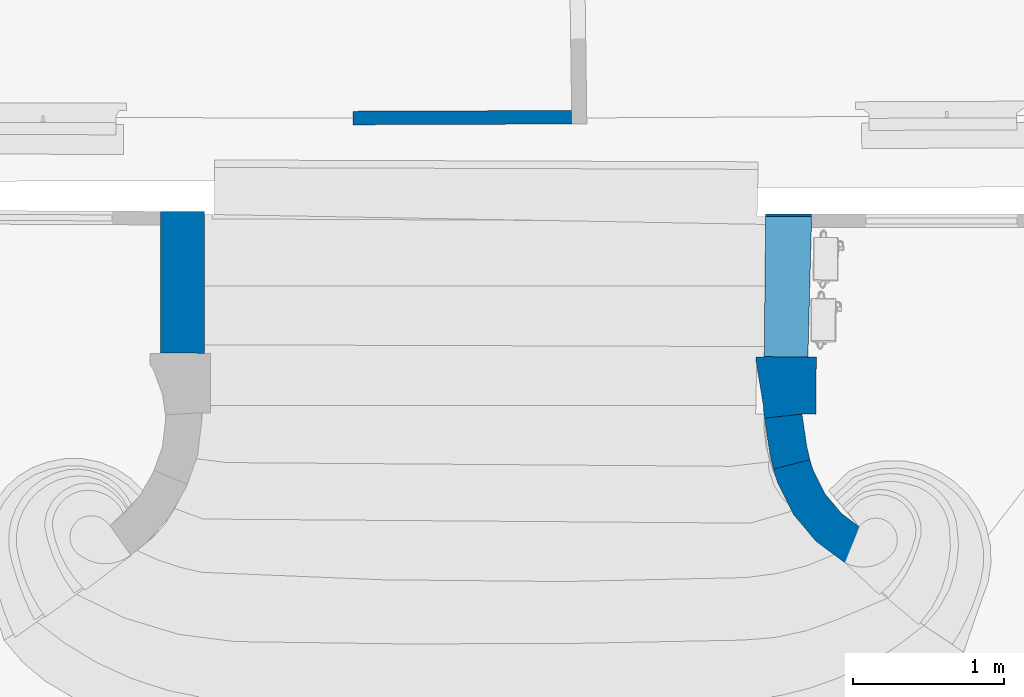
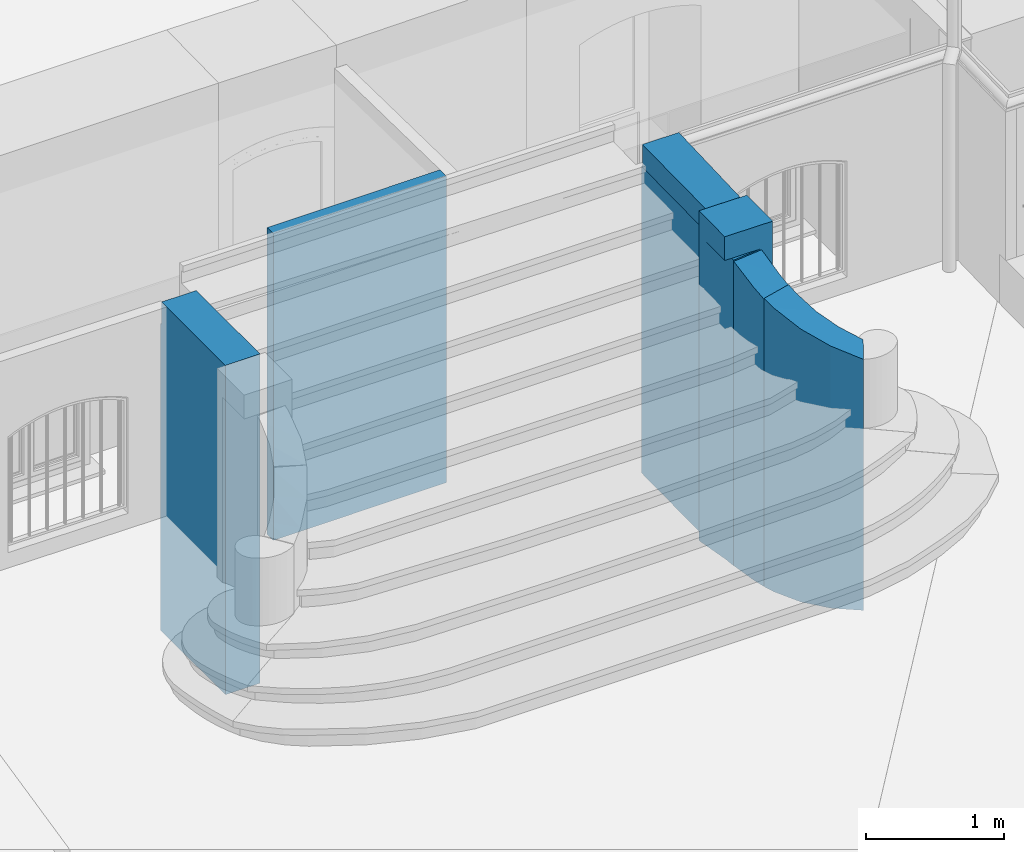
# One storey, part 14 of 133: 6 walls.
"""IFC2X3 building model written with IfcOpenShell, lengths in centimetres."""

from ifc_helpers import new_model, entity, si_unit, converted_unit, direction, frame, origin, origin_with_axes, place, context, subcontext, project, spatial, polyline, outline, extrude, clip, bounded_halfspace, material, layer, layer_set, layer_usage, type_object, element, save


model = new_model("IFC2X3")

# Units and contexts
model_context = context("Model", 3, precision=0.0001, world=origin(), true_north=direction((0.225632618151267, 0.974212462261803, 0.0)))
body_context = subcontext(model_context, "Body", "Model", "MODEL_VIEW")
ifc_project = project(units=[si_unit("LENGTHUNIT", "METRE", prefix="CENTI"), si_unit("AREAUNIT", "SQUARE_METRE", prefix="CENTI"), si_unit("VOLUMEUNIT", "CUBIC_METRE", prefix="CENTI"), converted_unit("PLANEANGLEUNIT", "DEGREE", entity("IfcRatioMeasure", 0.0174532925), si_unit("PLANEANGLEUNIT", "RADIAN"), dimensions=[0, 0, 0, 0, 0, 0, 0])], contexts=[model_context])

# Site, building, storey
site_placement = place(None, origin_with_axes())
site = spatial("IfcSite", under=ifc_project, at=site_placement, Name="Default Site", CompositionType="ELEMENT")
building_placement = place(site_placement, origin_with_axes())
building = spatial("IfcBuilding", under=site, at=building_placement, Name="Default Building", CompositionType="ELEMENT")
storey_placement = place(building_placement, frame((0.0, 0.0, -291.400371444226), z_axis=(0.0, 0.0, 1.0), x_axis=(1.0, 0.0, 0.0)))
storey = spatial("IfcBuildingStorey", under=building, at=storey_placement, Name="Rez-de-Jardin", CompositionType="ELEMENT", Elevation=-291.400371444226)

# Walls
ifc_material = material(Name="<aucun>")
ifc_layer_1 = layer(ifc_material, 9.0)
ifc_layer_set_1 = layer_set([ifc_layer_1], Name="default")
ifc_layer_usage_1 = layer_usage(ifc_layer_set_1, "AXIS2", "POSITIVE", -4.5)
wall_type_1 = type_object("IfcWallType", Name="default 90", PredefinedType="NOTDEFINED", material=ifc_layer_set_1)
wall_1_placement = place(storey_placement, frame((-298.891768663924, -907.451475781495, -1.94511073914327e-11), z_axis=(0.0, 0.0, 1.0), x_axis=(0.999992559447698, 0.00385759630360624, 0.0)))
element("IfcWallStandardCase", 1, at=wall_1_placement, inside=storey, type_object=wall_type_1, material=ifc_layer_usage_1, Name="Enveloppe 395010", context=body_context, shape_type="SweptSolid", body=[
    extrude(outline(polyline([(0.0658756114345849, 4.49999999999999), (0.0658756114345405, -4.49999999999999), (145.134690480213, -4.50000000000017), (145.049287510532, 4.49999999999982), (0.0658756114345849, 4.49999999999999)])), frame((0.0, 0.0, 8.88178419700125e-14), z_axis=(0.0, 0.0, 1.0), x_axis=(1.0, 0.0, 0.0)), (0.0, 0.0, 1.0), 271.400371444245),
])
ifc_layer_2 = layer(ifc_material, 40.0)
ifc_layer_set_2 = layer_set([ifc_layer_2], Name="default")
ifc_layer_usage_2 = layer_usage(ifc_layer_set_2, "AXIS2", "POSITIVE", -20.0)
wall_type_2 = type_object("IfcWallType", Name="default 400", PredefinedType="NOTDEFINED", material=ifc_layer_set_2)
wall_2_placement = place(storey_placement, frame((-11.7721376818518, -1103.79173966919, -1.94511073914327e-11), z_axis=(0.0, 0.0, 1.0), x_axis=(0.00648190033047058, 0.999978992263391, 0.0)))
element("IfcWallStandardCase", 2, at=wall_2_placement, inside=storey, type_object=wall_type_2, material=ifc_layer_usage_2, Name="Enveloppe 326500", context=body_context, shape_type="Clipping", body=[
    clip(clip(clip(clip(clip(extrude(outline(polyline([(-1.77635683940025e-13, 20.0), (-3.5527136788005e-13, 14.4963371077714), (-0.398599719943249, 14.4616086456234), (-2.74866973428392, 14.0974132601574), (-1.77635683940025e-13, -10.7391702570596), (0.0, -20.0), (37.8681198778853, -19.9999999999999), (37.8681198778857, -14.4240491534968), (123.726151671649, -16.1392549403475), (123.727688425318, -16.3763337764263), (132.727470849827, -16.3179968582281), (132.533112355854, 14.2316073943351), (37.8681198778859, 14.5778787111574), (37.8681198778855, 20.0000000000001), (-1.77635683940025e-13, 20.0)])), frame((0.0, 0.0, 8.88178419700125e-14), z_axis=(0.0, 0.0, 1.0), x_axis=(1.0, 0.0, 0.0)), (0.0, 0.0, 1.0), 291.413221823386), bounded_halfspace(frame((-1.77635683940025e-13, 20.0, 270.392004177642), z_axis=(0.0, 0.0, 1.0), x_axis=(1.0, 2.86836526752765e-15, 0.0)), True, frame((-1.77635683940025e-13, 20.0, 270.392004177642), z_axis=(0.0, 0.0, 1.0), x_axis=(1.0, 0.0, 0.0)), polyline([(-3.5527136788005e-13, -5.50366289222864), (-1.77635683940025e-13, 2.77555756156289e-15), (35.3393804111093, 9.43689570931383e-14), (6.20757054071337, -4.96282112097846), (-3.5527136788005e-13, -5.50366289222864)]))), bounded_halfspace(frame((123.726151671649, -16.1392549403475, 271.400371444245), z_axis=(0.0, 0.0, -1.0), x_axis=(0.999993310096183, -0.00365783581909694, 0.0)), True, frame((123.726151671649, -16.1392549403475, 271.400371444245), z_axis=(0.0, 0.0, 1.0), x_axis=(1.0, 0.0, 0.0)), polyline([(-85.858031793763, 1.7152057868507), (0.0, -5.55111512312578e-15), (7.31614318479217, -0.0267614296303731), (7.2617827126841, 30.3765143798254), (-85.7519482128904, 30.7167456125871), (-85.858031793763, 1.7152057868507)]))), bounded_halfspace(frame((123.727659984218, -16.3763339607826, 271.400371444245), z_axis=(0.0, 0.0, -1.0), x_axis=(0.999979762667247, 0.00636193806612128, 0.0)), True, frame((123.727659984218, -16.3763339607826, 271.400371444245), z_axis=(0.0, 0.0, 1.0), x_axis=(1.0, 0.0, 0.0)), polyline([(0.0, -8.32667268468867e-15), (7.31492770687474, 0.0465380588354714), (7.3146348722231, 0.210317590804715), (-0.00150831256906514, 0.237079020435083), (0.0, -8.32667268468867e-15)]))), bounded_halfspace(frame((132.533112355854, 14.2316073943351, 271.400371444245), z_axis=(0.0, 0.0, -1.0), x_axis=(-0.999993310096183, 0.00365783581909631, 0.0)), True, frame((132.533112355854, 14.2316073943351, 271.400371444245), z_axis=(0.0, 0.0, 1.0), x_axis=(1.0, 0.0, 0.0)), polyline([(-1.54517797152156, 0.00565204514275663), (-1.49052466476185, -30.5614032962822), (0.194365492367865, -30.5506839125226), (0.0, 0.0), (-1.54517797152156, 0.00565204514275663)]))), bounded_halfspace(frame((-2.74866973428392, 14.0974132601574, 270.392004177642), z_axis=(0.0, 0.0, -1.0), x_axis=(0.109998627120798, -0.99393173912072, 0.0)), True, frame((-2.74866973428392, 14.0974132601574, 270.392004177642), z_axis=(0.0, 0.0, 1.0), x_axis=(1.0, 0.0, 0.0)), polyline([(0.0, 5.55111512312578e-15), (2.74866973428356, -24.836583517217), (2.74866973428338, 0.39892384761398), (2.35007001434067, 0.364195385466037), (0.0, 5.55111512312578e-15)]))),
])
ifc_layer_3 = layer(ifc_material, 29.0)
ifc_layer_set_3 = layer_set([ifc_layer_3], Name="default")
ifc_layer_usage_3 = layer_usage(ifc_layer_set_3, "AXIS2", "POSITIVE", -14.5)
wall_type_3 = type_object("IfcWallType", Name="default 290", PredefinedType="NOTDEFINED", material=ifc_layer_set_3)
wall_3_placement = place(storey_placement, frame((-411.991026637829, -1063.6588983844, -1.94511073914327e-11), z_axis=(0.0, 0.0, 1.0), x_axis=(0.00116908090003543, 0.999999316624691, 0.0)))
element("IfcWallStandardCase", 3, at=wall_3_placement, inside=storey, type_object=wall_type_3, material=ifc_layer_usage_3, Name="Enveloppe 327406", context=body_context, shape_type="Clipping", body=[
    clip(extrude(outline(polyline([(0.212423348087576, 14.5), (0.212423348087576, -14.5), (94.2324744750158, -14.4999999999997), (94.3230589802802, 14.5000000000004), (0.212423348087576, 14.5)])), frame((0.0, 0.0, 1.33226762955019e-13), z_axis=(0.0, 0.0, 1.0), x_axis=(1.0, 0.0, 0.0)), (0.0, 0.0, 1.0), 291.413221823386), bounded_halfspace(frame((94.32305898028, 14.5000000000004, 271.400371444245), z_axis=(0.0, 0.0, -1.0), x_axis=(-1.0, -1.4924910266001e-14, 0.0)), True, frame((94.32305898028, 14.5000000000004, 271.400371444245), z_axis=(0.0, 0.0, 1.0), x_axis=(1.0, 0.0, 0.0)), polyline([(-1.61420470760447, -29.0000000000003), (-0.0905845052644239, -29.0000000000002), (0.0, 0.0), (-1.51198259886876, 0.0), (-1.61420470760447, -29.0000000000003)]))),
])
ifc_layer_usage_4 = layer_usage(ifc_layer_set_3, "AXIS2", "POSITIVE", -14.5)
wall_4_placement = place(storey_placement, frame((-11.6049998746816, -1065.97711542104, -1.94511073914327e-11), z_axis=(0.0, 0.0, 1.0), x_axis=(0.0101396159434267, 0.999948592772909, 0.0)))
element("IfcWallStandardCase", 4, at=wall_4_placement, inside=storey, type_object=wall_type_3, material=ifc_layer_usage_4, Name="Enveloppe 328179", context=body_context, shape_type="Clipping", body=[
    clip(extrude(outline(polyline([(0.106252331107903, 14.5), (0.106252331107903, -14.5017338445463), (93.2873864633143, -16.0222654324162), (93.1206055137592, 14.5), (0.106252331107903, 14.5)])), frame((0.0, 0.0, 271.400371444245), z_axis=(0.0, 0.0, 1.0), x_axis=(1.0, 0.0, 0.0)), (0.0, 0.0, 1.0), 20.0128503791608), bounded_halfspace(frame((93.2861758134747, -15.9028735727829, 281.400371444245), z_axis=(0.0, 0.0, 1.0), x_axis=(0.00544579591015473, -0.999985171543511, 0.0)), True, frame((93.2861758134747, -15.9028735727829, 281.400371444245), z_axis=(0.0, 0.0, 1.0), x_axis=(1.0, 0.0, 0.0)), polyline([(-7.31619212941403, -5.55111512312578e-15), (1.77635683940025e-13, -5.55111512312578e-15), (0.000650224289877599, -0.119397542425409), (-7.31619212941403, -5.55111512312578e-15)]))),
])
ifc_layer_4 = layer(ifc_material, 25.0)
ifc_layer_set_4 = layer_set([ifc_layer_4], Name="default")
ifc_layer_usage_5 = layer_usage(ifc_layer_set_4, "AXIS2", "POSITIVE", -12.5)
wall_type_4 = type_object("IfcWallType", Name="default 250", PredefinedType="NOTDEFINED", material=ifc_layer_set_4)
wall_5_placement = place(storey_placement, frame((33.5354159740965, -1191.42276411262, 8.88178419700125e-14), z_axis=(0.0, 0.0, 1.0), x_axis=(-0.869260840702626, 0.494353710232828, 0.0)))
solid = clip(clip(clip(clip(clip(clip(clip(clip(extrude(outline(polyline([(71.8207138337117, -17.9285398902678), (64.7706823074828, -11.3135539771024), (45.4568367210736, 1.57019522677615), (23.6924013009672, 9.65258198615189), (0.650702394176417, 12.4978827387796), (4.44089209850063e-13, 12.4999999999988), (0.0, -12.5000000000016), (0.488013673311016, -12.5015879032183), (17.768823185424, -14.6355060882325), (34.0917108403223, -20.697133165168), (48.5767055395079, -30.3596852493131), (53.8640870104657, -35.3207912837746), (71.8207138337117, -17.9285398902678)])), frame((0.0, 0.0, -1.33226762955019e-13), z_axis=(0.0, 0.0, 1.0), x_axis=(1.0, 0.0, 0.0)), (0.0, 0.0, 1.0), 255.06234281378), bounded_halfspace(frame((64.7706823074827, -11.3135539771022, 251.082385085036), z_axis=(0.34158593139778, -0.174343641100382, -0.923538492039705), x_axis=(-0.454605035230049, -0.890693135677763, 0.0)), True, frame((64.7706823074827, -11.3135539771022, 251.082385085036), z_axis=(0.0, 0.0, 1.0), x_axis=(1.0, 0.0, 0.0)), polyline([(-30.6789714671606, -9.38357918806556), (-8.88178419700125e-14, 0.0), (-19.3138455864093, 12.8837492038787), (-30.6789714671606, -9.38357918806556)]))), bounded_halfspace(frame((54.0096039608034, -35.1798479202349, 255.062215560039), z_axis=(0.334694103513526, -0.346346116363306, -0.876369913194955), x_axis=(0.91176712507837, 0.353947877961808, 0.20833052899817)), True, frame((54.0096039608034, -35.1798479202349, 255.062215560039), z_axis=(0.0, 0.0, 1.0), x_axis=(1.0, 0.0, 0.0)), polyline([(-0.20918392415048, -0.0812051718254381), (0.0, 0.0), (7.62289584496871, 7.38330880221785), (-0.20918392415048, -0.0812051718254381)]))), bounded_halfspace(frame((45.4568367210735, 1.57019522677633, 241.506674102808), z_axis=(0.372584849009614, -0.0908690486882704, -0.923538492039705), x_axis=(-0.236943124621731, -0.971523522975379, -3.99680288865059e-15)), True, frame((45.4568367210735, 1.57019522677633, 241.506674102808), z_axis=(0.0, 0.0, 1.0), x_axis=(1.0, 0.0, 0.0)), polyline([(-27.6880135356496, -16.2057013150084), (-8.88178419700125e-14, 1.77635683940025e-13), (-21.7644354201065, 8.08238675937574), (-27.6880135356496, -16.2057013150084)]))), bounded_halfspace(frame((23.6924013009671, 9.65258198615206, 231.93096312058), z_axis=(0.383497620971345, -0.00249568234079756, -0.923538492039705), x_axis=(-0.0065075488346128, -0.999978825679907, -7.54951656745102e-15)), True, frame((23.6924013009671, 9.65258198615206, 231.93096312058), z_axis=(0.0, 0.0, 1.0), x_axis=(1.0, 0.0, 0.0)), polyline([(-23.2043876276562, -22.1541698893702), (-8.88178419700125e-14, 0.0), (-23.0416989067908, 2.84530075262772), (-23.2043876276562, -22.1541698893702)]))), bounded_halfspace(frame((0.650702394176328, 12.4978827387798, 222.355252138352), z_axis=(0.380557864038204, 9.71445146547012e-16, -0.924757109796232), x_axis=(-1.73194791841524e-14, -1.0, -7.99360577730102e-15)), True, frame((0.650702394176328, 12.4978827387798, 222.355252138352), z_axis=(0.0, 0.0, 1.0), x_axis=(1.0, 0.0, 0.0)), polyline([(-0.650702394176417, -24.9978827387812), (0.0, 0.0), (-0.650702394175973, 0.00211726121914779), (-0.650702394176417, -24.9978827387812)]))), bounded_halfspace(frame((0.650702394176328, 12.4978827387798, 222.355252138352), z_axis=(0.481040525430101, -0.00313046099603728, -0.876692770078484), x_axis=(0.0065075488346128, 0.999978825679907, 1.02140518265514e-14)), True, frame((0.650702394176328, 12.4978827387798, 222.355252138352), z_axis=(0.0, 0.0, 1.0), x_axis=(1.0, 0.0, 0.0)), polyline([(-0.650702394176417, -24.9978827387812), (-0.1626887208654, -24.9994706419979), (0.0, 0.0), (-0.650702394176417, -24.9978827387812)]))), bounded_halfspace(frame((23.6924013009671, 9.65258198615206, 231.93096312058), z_axis=(0.470601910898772, -0.114774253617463, -0.874848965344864), x_axis=(0.236943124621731, 0.971523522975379, 6.21724893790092e-15)), True, frame((23.6924013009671, 9.65258198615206, 231.93096312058), z_axis=(0.0, 0.0, 1.0), x_axis=(1.0, 0.0, 0.0)), polyline([(-23.2043876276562, -22.1541698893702), (-5.9235781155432, -24.2880880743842), (-8.88178419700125e-14, 0.0), (-23.2043876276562, -22.1541698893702)]))), bounded_halfspace(frame((34.0917108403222, -20.6971331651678, 241.506674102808), z_axis=(0.43144801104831, -0.220208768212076, -0.874848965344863), x_axis=(0.454605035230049, 0.890693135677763, 0.0)), True, frame((34.0917108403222, -20.6971331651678, 241.506674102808), z_axis=(0.0, 0.0, 1.0), x_axis=(1.0, 0.0, 0.0)), polyline([(-16.3228876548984, 6.06162707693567), (-8.88178419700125e-14, 0.0), (11.3651258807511, 22.2673283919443), (-16.3228876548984, 6.06162707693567)])))
element("IfcWallStandardCase", 5, at=wall_5_placement, inside=storey, type_object=wall_type_4, material=ifc_layer_usage_5, Name="Enveloppe courbe 328920", context=body_context, shape_type="Clipping", body=[
    clip(clip(clip(clip(solid, bounded_halfspace(frame((48.5767055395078, -30.3596852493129, 251.082385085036), z_axis=(0.369034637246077, -0.313771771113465, -0.874848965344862), x_axis=(0.647759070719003, 0.761845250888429, 0.0)), True, frame((48.5767055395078, -30.3596852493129, 251.082385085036), z_axis=(0.0, 0.0, 1.0), x_axis=(1.0, 0.0, 0.0)), polyline([(-14.4849946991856, 9.66255208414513), (0.0, 0.0), (16.1939767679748, 19.0461312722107), (-14.4849946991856, 9.66255208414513)]))), bounded_halfspace(frame((61.6324998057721, -27.7965391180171, 255.055549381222), z_axis=(0.334694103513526, -0.346346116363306, -0.876369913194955), x_axis=(0.718304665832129, 0.695728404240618, -0.000628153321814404)), True, frame((61.6324998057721, -27.7965391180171, 255.055549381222), z_axis=(0.0, 0.0, 1.0), x_axis=(1.0, 0.0, 0.0)), polyline([(-13.0557942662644, -2.56314613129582), (-7.83207976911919, -7.46451397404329), (0.0, 0.0), (9.90924691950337, 9.5978000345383), (-13.0557942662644, -2.56314613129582)]))), bounded_halfspace(frame((71.8207138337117, -17.9285398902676, 255.062342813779), z_axis=(0.290320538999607, -0.246845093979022, -0.924543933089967), x_axis=(-0.647759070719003, -0.761845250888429, 3.77475828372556e-15)), True, frame((71.8207138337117, -17.9285398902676, 255.062342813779), z_axis=(0.0, 0.0, 1.0), x_axis=(1.0, 0.0, 0.0)), polyline([(-23.2440082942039, -12.4311453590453), (-0.278967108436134, -0.270199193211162), (0.0, 1.77635683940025e-13), (-7.05003152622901, 6.61498591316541), (-23.2440082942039, -12.4311453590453)]))), bounded_halfspace(frame((53.8640870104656, -35.3207912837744, 255.062342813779), z_axis=(0.334694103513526, -0.346346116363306, -0.876369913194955), x_axis=(0.718304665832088, 0.69572840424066, -0.000628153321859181)), True, frame((53.8640870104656, -35.3207912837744, 255.062342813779), z_axis=(0.0, 0.0, 1.0), x_axis=(1.0, 0.0, 0.0)), polyline([(-0.0636669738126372, 0.0597381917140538), (0.0, 0.0), (0.145516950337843, 0.140943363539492), (-0.0636669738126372, 0.0597381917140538)]))),
])
ifc_layer_usage_6 = layer_usage(ifc_layer_set_4, "AXIS2", "POSITIVE", -12.5)
wall_6_placement = place(storey_placement, frame((-7.93743109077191, -1137.20071616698, 8.88178419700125e-14), z_axis=(0.0, 0.0, 1.0), x_axis=(-0.241860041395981, 0.970311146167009, 0.0)))
element("IfcWallStandardCase", 6, at=wall_6_placement, inside=storey, type_object=wall_type_4, material=ifc_layer_usage_6, Name="Enveloppe courbe 328787", context=body_context, shape_type="Clipping", body=[
    clip(clip(clip(clip(clip(extrude(outline(polyline([(34.1800592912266, 9.97911833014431), (10.6780213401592, 12.2663534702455), (-0.114321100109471, 12.4936177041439), (0.0871687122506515, -12.5041873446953), (9.5844914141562, -12.7097189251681), (30.6796993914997, -14.7627196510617), (34.1800592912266, 9.97911833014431)])), frame((0.0, 0.0, -1.33226762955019e-13), z_axis=(0.0, 0.0, 1.0), x_axis=(1.0, 0.0, 0.0)), (0.0, 0.0, 1.0), 269.348615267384), bounded_halfspace(frame((34.1800592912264, 9.97911833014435, 269.348615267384), z_axis=(0.401868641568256, -0.0175950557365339, -0.915528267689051), x_axis=(-0.0437411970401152, -0.99904289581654, 0.0)), True, frame((34.1800592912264, 9.97911833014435, 269.348615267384), z_axis=(0.0, 0.0, 1.0), x_axis=(1.0, 0.0, 0.0)), polyline([(-24.5955678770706, -22.6888372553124), (-0.353128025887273, -2.49603945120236), (0.0, 0.0), (-23.5020379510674, 2.28723514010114), (-24.5955678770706, -22.6888372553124)]))), bounded_halfspace(frame((-0.114321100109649, 12.493617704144, 254.304296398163), z_axis=(0.0, 0.0, -1.0), x_axis=(0.00806003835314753, -0.999967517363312, 0.0)), True, frame((-0.114321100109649, 12.493617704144, 254.304296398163), z_axis=(0.0, 0.0, 1.0), x_axis=(1.0, 0.0, 0.0)), polyline([(0.11432110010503, -14.1832311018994), (0.114321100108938, 0.00639151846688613), (-1.77635683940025e-13, 4.44089209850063e-14), (0.11432110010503, -14.1832311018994)]))), bounded_halfspace(frame((10.678021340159, 12.2663534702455, 258.988502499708), z_axis=(0.401723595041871, 2.72004641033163e-15, -0.915760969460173), x_axis=(-2.96235258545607e-13, -1.0, -1.29881552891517e-13)), True, frame((10.678021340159, 12.2663534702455, 258.988502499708), z_axis=(0.0, 0.0, 1.0), x_axis=(1.0, 0.0, 0.0)), polyline([(-10.6780213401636, -13.9559668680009), (-10.5924854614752, -24.5679635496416), (0.0, 0.0), (-10.6780213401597, 0.233655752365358), (-10.6780213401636, -13.9559668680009)]))), bounded_halfspace(frame((9.58449141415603, -12.7097189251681, 258.988502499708), z_axis=(0.438672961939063, -0.0192064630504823, -0.898441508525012), x_axis=(0.898267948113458, -0.0196550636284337, 0.439008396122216)), True, frame((9.58449141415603, -12.7097189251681, 258.988502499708), z_axis=(0.0, 0.0, 1.0), x_axis=(1.0, 0.0, 0.0)), polyline([(-9.49732270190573, 0.205531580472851), (-1.77635683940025e-13, 4.44089209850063e-14), (1.093529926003, 24.9760723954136), (-9.49895553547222, 0.408108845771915), (-9.49732270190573, 0.205531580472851)]))), bounded_halfspace(frame((30.6796993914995, -14.7627196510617, 269.348615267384), z_axis=(0.434695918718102, -0.0658202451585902, -0.898168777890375), x_axis=(0.140078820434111, 0.990128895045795, -0.00476395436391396)), True, frame((30.6796993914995, -14.7627196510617, 269.348615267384), z_axis=(0.0, 0.0, 1.0), x_axis=(1.0, 0.0, 0.0)), polyline([(-21.0952079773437, 2.05300072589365), (0.0, 0.0), (3.14723187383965, 22.2457985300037), (-21.0952079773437, 2.05300072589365)]))),
])

save(model, "model.ifc")
